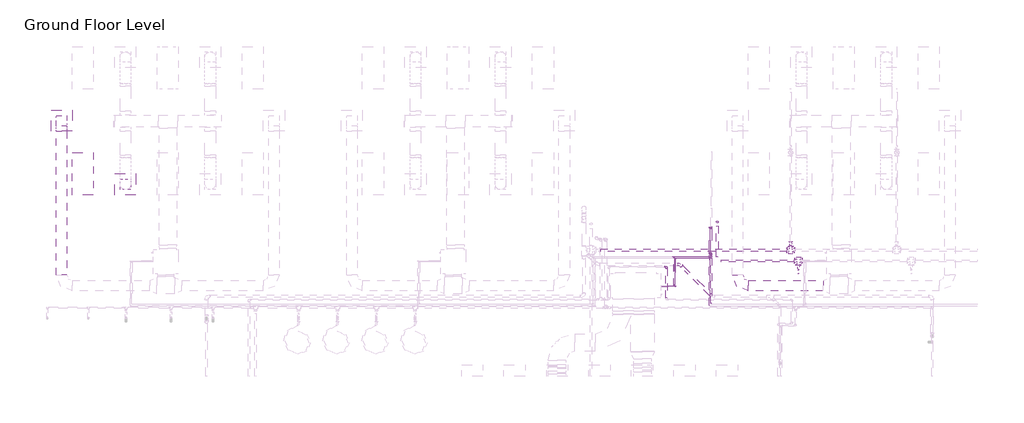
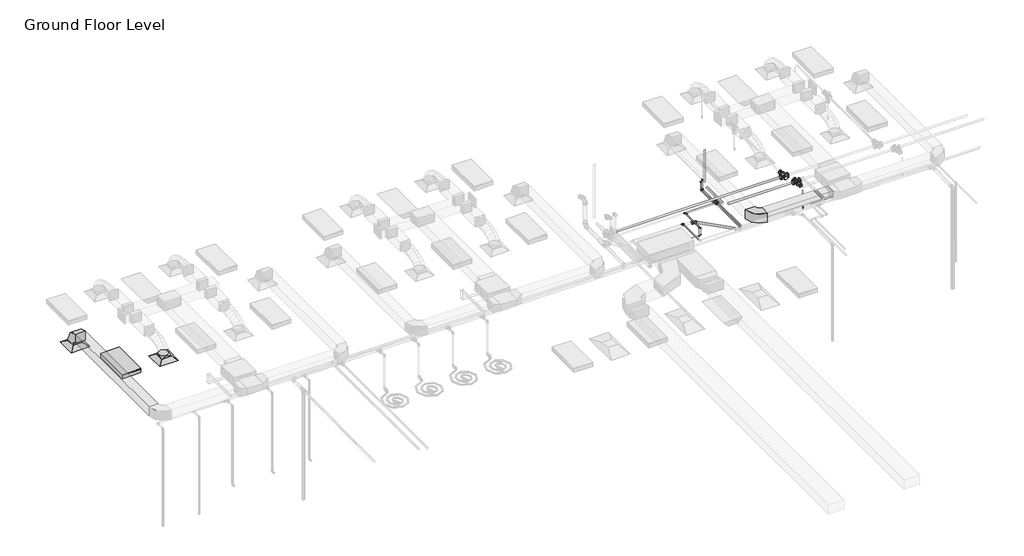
# One storey, part 53 of 74: 30 pipe fittings, 25 pipe segments, 3 duct fittings, 3 duct segments, 2 air terminals, 1 fire suppression terminal, 1 light fixture.
"""IFC4 building model written with IfcOpenShell, lengths in millimetres."""

from ifc_helpers import new_model, si_unit, point, frame, frame_2d, origin, place, context, project, spatial, polyline, circle_curve, trimmed, segment, composite_curve, outline, extrude, transform, mapped, element, save
from components import m_return_diffuser_600_x_600_face_300_x_300_connection_ff221211, m_rectangular_elbow_radius_1_w_618da153, m_rectangular_to_round_transition_angle_45_degree_641efff0, m_sprinkler_pendent_15_mm_pendent_06fcbd8e, m_troffer_light_parabolic_rectangular1_0600x1200mm_4_lamp_86473d4a, m_bend_pvc_sch_40_dwv_standard_9e3ead78, m_elbow_generic_standard_a088f956, m_elbow_generic_standard_2a704253, m_elbow_generic_standard_f25111a3, m_elbow_generic_standard_aa88c7e2, m_elbow_generic_standard_738589b0, m_elbow_generic_standard_463efa77, m_reducer_flanged_cs_class_150_standard_a7631c35, m_reducer_flanged_cs_class_150_standard_55262df0, m_tee_generic_standard_cdc1cff5, m_tee_generic_standard_d9c36a1d, m_tee_generic_standard_3138dd84, m_tee_generic_standard_5078887e, m_tee_round_base_flanged_cs_class_150_standard_dd767e04, m_transition_generic_standard_6dc712c0, m_transition_generic_standard_b63c8674, m_transition_generic_standard_1c56dba2, m_transition_generic_standard_a7d161d7, m_transition_generic_standard_5a02929d, m_transition_generic_standard_5f8a9689, standard_517a5a8d

model = new_model("IFC4")

# Units and contexts
model_context = context("Model", 3, world=origin())
ifc_project = project(units=[si_unit("LENGTHUNIT", "METRE", prefix="MILLI")], contexts=[model_context])

# Site, building, storey
site = spatial("IfcSite", under=ifc_project)
building = spatial("IfcBuilding", under=site)
storey = spatial("IfcBuildingStorey", under=building, Name="Ground Floor Level", Elevation=900.0)

# Air terminals
placement = place(None, origin())
m_return_diffuser_600_x_600_face_300_x_300_connection_shape = m_return_diffuser_600_x_600_face_300_x_300_connection_ff221211(model_context)
element("IfcAirTerminal", 1, ObjectType="M_Return Diffuser : 600 x 600 Face 300 x 300 Connection", at=placement, inside=storey, context=model_context, shape_type="MappedRepresentation", body=[
    mapped(m_return_diffuser_600_x_600_face_300_x_300_connection_shape, transform((-20937.2327605, 18735.2153534, 3650.0), x_axis=(1.0, 0.0, 0.0), y_axis=(0.0, 1.0, 0.0), z_axis=(0.0, 0.0, 1.0))),
])
element("IfcAirTerminal", 2, ObjectType="M_Supply Diffuser : 600 x 600 Face 300 x 300 Connection", at=placement, inside=storey, context=model_context, shape_type="MappedRepresentation", body=[
    mapped(m_return_diffuser_600_x_600_face_300_x_300_connection_shape, transform((-19137.2327605, 16935.2153534, 3650.0), x_axis=(1.0, 0.0, 0.0), y_axis=(0.0, 1.0, 0.0), z_axis=(0.0, 0.0, 1.0))),
])

# Duct fittings
m_rectangular_elbow_radius_1_w_shape = m_rectangular_elbow_radius_1_w_618da153(model_context)
element("IfcDuctFitting", 3, ObjectType="M_Rectangular Elbow - Radius : 1 W", at=placement, inside=storey, context=model_context, shape_type="MappedRepresentation", body=[
    mapped(m_rectangular_elbow_radius_1_w_shape, transform((-20937.2327605, 18735.2153534, 4075.2881511), x_axis=(0.0, 0.0, 1.0), y_axis=(0.0, -1.0, 0.0), z_axis=(1.0, 0.0, 0.0))),
])
element("IfcDuctFitting", 4, ObjectType="M_Rectangular Elbow - Radius : 1 W", at=placement, inside=storey, context=model_context, shape_type="MappedRepresentation", body=[
    mapped(m_rectangular_elbow_radius_1_w_shape, transform((-1837.2327605, 14069.8153534, 4075.2872564), x_axis=(0.0, -1.0, 0.0), y_axis=(1.0, 0.0, 0.0), z_axis=(0.0, 0.0, 1.0))),
])
m_rectangular_to_round_transition_angle_45_degree_shape = m_rectangular_to_round_transition_angle_45_degree_641efff0(model_context)
element("IfcDuctFitting", 5, ObjectType="M_Rectangular to Round Transition - Angle : 45 Degree", at=placement, inside=storey, context=model_context, shape_type="MappedRepresentation", body=[
    mapped(m_rectangular_to_round_transition_angle_45_degree_shape, transform((-19137.2327605, 16935.2153534, 3751.6), x_axis=(0.0, 0.0, 1.0), y_axis=(-1.0, 0.0, 0.0), z_axis=(0.0, -1.0, 0.0))),
])

# Duct segments
element("IfcDuctSegment", 6, ObjectType="Radius Elbows / Taps", at=placement, inside=storey, context=model_context, shape_type="SweptSolid", body=[
    extrude(outline(polyline([(-20787.2327605, 14369.8153534), (-21087.2327605, 14369.8153534), (-21087.2327605, 18435.2153534), (-20787.2327605, 18435.2153534), (-20787.2327605, 14369.8153534)])), frame((0.0, 0.0, 3925.2881511), z_axis=(0.0, 0.0, 1.0), x_axis=(1.0, 0.0, 0.0)), (0.0, 0.0, 1.0), 300.0),
])
element("IfcDuctSegment", 7, ObjectType="Radius Elbows / Taps", at=placement, inside=storey, context=model_context, shape_type="SweptSolid", body=[
    extrude(outline(polyline([(-20787.2327605, 18585.2153534), (-21087.2327605, 18585.2153534), (-21087.2327605, 18885.2153534), (-20787.2327605, 18885.2153534), (-20787.2327605, 18585.2153534)])), frame((0.0, 0.0, 3751.6), z_axis=(0.0, 0.0, 1.0), x_axis=(1.0, 0.0, 0.0)), (0.0, 0.0, 1.0), 23.6881511),
])
element("IfcDuctSegment", 8, ObjectType="Radius Elbows / Taps", at=placement, inside=storey, context=model_context, shape_type="SweptSolid", body=[
    extrude(outline(polyline([(-1537.2327605, 13919.8153534), (-1537.2327605, 14219.8153534), (576.4293293, 14219.8153534), (576.4293293, 13919.8153534), (-1537.2327605, 13919.8153534)])), frame((0.0, 0.0, 3925.2872564), z_axis=(0.0, 0.0, 1.0), x_axis=(1.0, 0.0, 0.0)), (0.0, 0.0, 1.0), 300.0),
])

# Fire suppression terminal
m_sprinkler_pendent_15_mm_pendent_shape = m_sprinkler_pendent_15_mm_pendent_06fcbd8e(model_context)
element("IfcFireSuppressionTerminal", 9, ObjectType="M_Sprinkler - Pendent : 15 mm Pendent", at=placement, inside=storey, context=model_context, shape_type="MappedRepresentation", body=[
    mapped(m_sprinkler_pendent_15_mm_pendent_shape, transform((-118.3252882, 14412.7243649, 3650.0), x_axis=(1.0, 0.0, 0.0), y_axis=(0.0, 1.0, 0.0), z_axis=(0.0, 0.0, 1.0))),
])

# Light fixture
m_troffer_light_parabolic_rectangular1_0600x1200mm_4_lamp_shape = m_troffer_light_parabolic_rectangular1_0600x1200mm_4_lamp_86473d4a(model_context)
element("IfcLightFixture", 10, ObjectType="M_Troffer Light - Parabolic Rectangular1 : 0600x1200mm(4 Lamp) - 277V 2", at=placement, inside=storey, context=model_context, shape_type="MappedRepresentation", body=[
    mapped(m_troffer_light_parabolic_rectangular1_0600x1200mm_4_lamp_shape, transform((-20396.6986926, 17253.918855, 3650.0), x_axis=(0.0, 1.0, 0.0), y_axis=(-1.0, 0.0, 0.0), z_axis=(0.0, 0.0, 1.0))),
])

# Pipe fittings
m_bend_pvc_sch_40_dwv_standard_shape = m_bend_pvc_sch_40_dwv_standard_9e3ead78(model_context)
element("IfcPipeFitting", 11, ObjectType="M_Bend - PVC - Sch 40 - DWV : Standard", at=placement, inside=storey, context=model_context, shape_type="MappedRepresentation", body=[
    mapped(m_bend_pvc_sch_40_dwv_standard_shape, transform((-3461.339311, 14668.7334723, 4139.7239678), x_axis=(-0.707093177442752, 0.7070575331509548, 0.009427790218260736), y_axis=(-0.7070496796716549, -0.7071481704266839, 0.004713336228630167), z_axis=(0.009999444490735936, -0.003333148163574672, 0.9999444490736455))),
])
m_elbow_generic_standard_shape = m_elbow_generic_standard_a088f956(model_context)
element("IfcPipeFitting", 12, ObjectType="M_Elbow - Generic : Standard", at=placement, inside=storey, context=model_context, shape_type="MappedRepresentation", body=[
    mapped(m_elbow_generic_standard_shape, transform((-3637.0883718, 14069.8153534, 4380.0), x_axis=(0.0, 0.0, 1.0), y_axis=(0.0, 1.0, 0.0), z_axis=(-1.0, 0.0, 0.0))),
])
m_elbow_generic_standard_2_shape = m_elbow_generic_standard_2a704253(model_context)
element("IfcPipeFitting", 13, ObjectType="M_Elbow - Generic : Standard", at=placement, inside=storey, context=model_context, shape_type="MappedRepresentation", body=[
    mapped(m_elbow_generic_standard_2_shape, transform((-3597.0886568, 14044.8153534, 4365.0), x_axis=(0.0, 0.0, 1.0), y_axis=(0.0, 1.0, 0.0), z_axis=(-1.0, 0.0, 0.0))),
])
m_elbow_generic_standard_3_shape = m_elbow_generic_standard_f25111a3(model_context)
element("IfcPipeFitting", 14, ObjectType="M_Elbow - Generic : Standard", at=placement, inside=storey, context=model_context, shape_type="MappedRepresentation", body=[
    mapped(m_elbow_generic_standard_3_shape, transform((-3597.0886568, 14044.8153534, 4134.9021206), x_axis=(0.9999999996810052, 0.0, 2.525845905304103e-05), y_axis=(-2.525845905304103e-05, 0.0, 0.9999999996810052), z_axis=(0.0, -1.0, 0.0))),
])
m_elbow_generic_standard_4_shape = m_elbow_generic_standard_aa88c7e2(model_context)
element("IfcPipeFitting", 15, ObjectType="M_Elbow - Generic : Standard", at=placement, inside=storey, context=model_context, shape_type="MappedRepresentation", body=[
    mapped(m_elbow_generic_standard_4_shape, transform((-3637.0883718, 14069.8153534, 4084.1021206), x_axis=(0.9999999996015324, 0.0, 2.823004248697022e-05), y_axis=(-2.823004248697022e-05, 0.0, 0.9999999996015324), z_axis=(0.0, -1.0, 0.0))),
])
m_elbow_generic_standard_5_shape = m_elbow_generic_standard_738589b0(model_context)
element("IfcPipeFitting", 16, ObjectType="M_Elbow - Generic : Standard", at=placement, inside=storey, context=model_context, shape_type="MappedRepresentation", body=[
    mapped(m_elbow_generic_standard_5_shape, transform((-2632.5317947, 15715.5935138, 4581.0887163), x_axis=(0.0, 0.0, 1.0), y_axis=(0.0, 1.0, 0.0), z_axis=(-1.0, 0.0, 0.0))),
])
element("IfcPipeFitting", 17, ObjectType="M_Elbow - Generic : Standard", at=placement, inside=storey, context=model_context, shape_type="MappedRepresentation", body=[
    mapped(m_elbow_generic_standard_5_shape, transform((-2632.5317947, 14990.7777393, 4365.0), x_axis=(0.0, 1.0, 0.0), y_axis=(0.0, 0.0, -1.0), z_axis=(-1.0, 0.0, 0.0))),
])
element("IfcPipeFitting", 18, ObjectType="M_Elbow - Generic : Standard", at=placement, inside=storey, context=model_context, shape_type="MappedRepresentation", body=[
    mapped(m_elbow_generic_standard_5_shape, transform((-2632.5317947, 15715.5935138, 4300.0), x_axis=(0.0, 0.0, -1.0), y_axis=(0.0, -1.0, 0.0), z_axis=(-1.0, 0.0, 0.0))),
])
element("IfcPipeFitting", 19, ObjectType="M_Elbow - Generic : Standard", at=placement, inside=storey, context=model_context, shape_type="MappedRepresentation", body=[
    mapped(m_elbow_generic_standard_5_shape, transform((-2632.5317947, 14990.7777393, 4300.0), x_axis=(0.0, 0.0, -1.0), y_axis=(0.0, 1.0, 0.0), z_axis=(1.0, 0.0, 0.0))),
])
m_elbow_generic_standard_6_shape = m_elbow_generic_standard_463efa77(model_context)
element("IfcPipeFitting", 20, ObjectType="M_Elbow - Generic : Standard", at=placement, inside=storey, context=model_context, shape_type="MappedRepresentation", body=[
    mapped(m_elbow_generic_standard_6_shape, transform((-2579.6952605, 15716.2153534, 4634.3568617), x_axis=(0.0, 0.0, 1.0), y_axis=(0.0, 1.0, 0.0), z_axis=(-1.0, 0.0, 0.0))),
])
element("IfcPipeFitting", 21, ObjectType="M_Elbow - Generic : Standard", at=placement, inside=storey, context=model_context, shape_type="MappedRepresentation", body=[
    mapped(m_elbow_generic_standard_6_shape, transform((-2579.6952605, 14974.394156, 4380.0), x_axis=(0.0, 1.0, 0.0), y_axis=(0.0, 0.0, -1.0), z_axis=(-1.0, 0.0, 0.0))),
])
element("IfcPipeFitting", 22, ObjectType="M_Elbow - Generic : Standard", at=placement, inside=storey, context=model_context, shape_type="MappedRepresentation", body=[
    mapped(m_elbow_generic_standard_6_shape, transform((-2579.6952605, 15716.2153534, 4300.0), x_axis=(0.0, 0.0, -1.0), y_axis=(0.0, -1.0, 0.0), z_axis=(-1.0, 0.0, 0.0))),
])
element("IfcPipeFitting", 23, ObjectType="M_Elbow - Generic : Standard", at=placement, inside=storey, context=model_context, shape_type="MappedRepresentation", body=[
    mapped(m_elbow_generic_standard_6_shape, transform((-2579.6952605, 14974.394156, 4300.0), x_axis=(0.0, 0.0, -1.0), y_axis=(0.0, 1.0, 0.0), z_axis=(1.0, 0.0, 0.0))),
])
m_reducer_flanged_cs_class_150_standard_shape = m_reducer_flanged_cs_class_150_standard_a7631c35(model_context)
element("IfcPipeFitting", 24, ObjectType="M_Reducer - Flanged - CS - Class 150 : Standard", at=placement, inside=storey, context=model_context, shape_type="MappedRepresentation", body=[
    mapped(m_reducer_flanged_cs_class_150_standard_shape, transform((-337.2327605, 15187.2009828, 4360.0), x_axis=(0.0, 1.0, 0.0), y_axis=(-1.0, 0.0, 0.0), z_axis=(0.0, 0.0, 1.0))),
])
m_reducer_flanged_cs_class_150_standard_2_shape = m_reducer_flanged_cs_class_150_standard_55262df0(model_context)
element("IfcPipeFitting", 25, ObjectType="M_Reducer - Flanged - CS - Class 150 : Standard", at=placement, inside=storey, context=model_context, shape_type="MappedRepresentation", body=[
    mapped(m_reducer_flanged_cs_class_150_standard_2_shape, transform((-118.3252882, 14659.4681847, 4290.0), x_axis=(0.0, -1.0, 0.0), y_axis=(1.0, 0.0, 0.0), z_axis=(0.0, 0.0, 1.0))),
])
m_tee_generic_standard_shape = m_tee_generic_standard_cdc1cff5(model_context)
element("IfcPipeFitting", 26, ObjectType="M_Tee - Generic : Standard", at=placement, inside=storey, context=model_context, shape_type="MappedRepresentation", body=[
    mapped(m_tee_generic_standard_shape, transform((-3637.091079, 14885.6024145, 4380.0), x_axis=(-1.0, 0.0, 0.0), y_axis=(0.0, 1.0, 0.0), z_axis=(0.0, 0.0, -1.0))),
])
m_tee_generic_standard_2_shape = m_tee_generic_standard_d9c36a1d(model_context)
element("IfcPipeFitting", 27, ObjectType="M_Tee - Generic : Standard", at=placement, inside=storey, context=model_context, shape_type="MappedRepresentation", body=[
    mapped(m_tee_generic_standard_2_shape, transform((-3597.091079, 14844.4055749, 4365.0), x_axis=(1.0, 0.0, 0.0), y_axis=(0.0, 1.0, 0.0), z_axis=(0.0, 0.0, 1.0))),
])
m_tee_generic_standard_3_shape = m_tee_generic_standard_3138dd84(model_context)
element("IfcPipeFitting", 28, ObjectType="M_Tee - Generic : Standard", at=placement, inside=storey, context=model_context, shape_type="MappedRepresentation", body=[
    mapped(m_tee_generic_standard_3_shape, transform((-2579.6952605, 14885.6024145, 4380.0), x_axis=(0.0, 1.0, 0.0), y_axis=(1.0, 0.0, 0.0), z_axis=(0.0, 0.0, -1.0))),
])
m_tee_generic_standard_4_shape = m_tee_generic_standard_5078887e(model_context)
element("IfcPipeFitting", 29, ObjectType="M_Tee - Generic : Standard", at=placement, inside=storey, context=model_context, shape_type="MappedRepresentation", body=[
    mapped(m_tee_generic_standard_4_shape, transform((-2632.5317947, 14844.4055749, 4365.0), x_axis=(0.0, 1.0, 0.0), y_axis=(1.0, 0.0, 0.0), z_axis=(0.0, 0.0, -1.0))),
])
m_tee_round_base_flanged_cs_class_150_standard_shape = m_tee_round_base_flanged_cs_class_150_standard_dd767e04(model_context)
element("IfcPipeFitting", 30, ObjectType="M_Tee Round Base - Flanged - CS - Class 150 : Standard", at=placement, inside=storey, context=model_context, shape_type="MappedRepresentation", body=[
    mapped(m_tee_round_base_flanged_cs_class_150_standard_shape, transform((-118.3252882, 14773.4681847, 4290.0), x_axis=(-1.0, 0.0, 0.0), y_axis=(0.0, 1.0, 0.0), z_axis=(0.0, 0.0, -1.0))),
])
element("IfcPipeFitting", 31, ObjectType="M_Tee Round Base - Flanged - CS - Class 150 : Standard", at=placement, inside=storey, context=model_context, shape_type="MappedRepresentation", body=[
    mapped(m_tee_round_base_flanged_cs_class_150_standard_shape, transform((-337.2327605, 15073.2009828, 4360.0), x_axis=(-1.0, 0.0, 0.0), y_axis=(0.0, -1.0, 0.0), z_axis=(0.0, 0.0, 1.0))),
])
m_transition_generic_standard_shape = m_transition_generic_standard_6dc712c0(model_context)
element("IfcPipeFitting", 32, ObjectType="M_Transition - Generic : Standard", at=placement, inside=storey, context=model_context, shape_type="MappedRepresentation", body=[
    mapped(m_transition_generic_standard_shape, transform((-3659.316079, 14885.6024145, 4380.0), x_axis=(-1.0, 0.0, 0.0), y_axis=(0.0, -1.0, 0.0), z_axis=(0.0, 0.0, 1.0))),
])
element("IfcPipeFitting", 33, ObjectType="M_Transition - Generic : Standard", at=placement, inside=storey, context=model_context, shape_type="MappedRepresentation", body=[
    mapped(m_transition_generic_standard_shape, transform((-3637.091079, 14863.3774145, 4380.0), x_axis=(0.0, -1.0, 0.0), y_axis=(1.0, 0.0, 0.0), z_axis=(0.0, 0.0, 1.0))),
])
m_transition_generic_standard_2_shape = m_transition_generic_standard_b63c8674(model_context)
element("IfcPipeFitting", 34, ObjectType="M_Transition - Generic : Standard", at=placement, inside=storey, context=model_context, shape_type="MappedRepresentation", body=[
    mapped(m_transition_generic_standard_2_shape, transform((-3616.128579, 14844.4055749, 4365.0), x_axis=(-1.0, 0.0, 0.0), y_axis=(0.0, -1.0, 0.0), z_axis=(0.0, 0.0, 1.0))),
])
element("IfcPipeFitting", 35, ObjectType="M_Transition - Generic : Standard", at=placement, inside=storey, context=model_context, shape_type="MappedRepresentation", body=[
    mapped(m_transition_generic_standard_2_shape, transform((-3597.091079, 14825.3680749, 4365.0), x_axis=(0.0, -1.0, 0.0), y_axis=(1.0, 0.0, 0.0), z_axis=(0.0, 0.0, 1.0))),
])
m_transition_generic_standard_3_shape = m_transition_generic_standard_1c56dba2(model_context)
element("IfcPipeFitting", 36, ObjectType="M_Transition - Generic : Standard", at=placement, inside=storey, context=model_context, shape_type="MappedRepresentation", body=[
    mapped(m_transition_generic_standard_3_shape, transform((-2608.2702605, 14885.6024145, 4380.0), x_axis=(-1.0, 0.0, 0.0), y_axis=(0.0, -1.0, 0.0), z_axis=(0.0, 0.0, 1.0))),
])
m_transition_generic_standard_4_shape = m_transition_generic_standard_a7d161d7(model_context)
element("IfcPipeFitting", 37, ObjectType="M_Transition - Generic : Standard", at=placement, inside=storey, context=model_context, shape_type="MappedRepresentation", body=[
    mapped(m_transition_generic_standard_4_shape, transform((-2656.3442947, 14844.4055749, 4365.0), x_axis=(-1.0, 0.0, 0.0), y_axis=(0.0, -1.0, 0.0), z_axis=(0.0, 0.0, 1.0))),
])
m_transition_generic_standard_5_shape = m_transition_generic_standard_5a02929d(model_context)
element("IfcPipeFitting", 38, ObjectType="M_Transition - Generic : Standard", at=placement, inside=storey, context=model_context, shape_type="MappedRepresentation", body=[
    mapped(m_transition_generic_standard_5_shape, transform((-2579.6952605, 14857.0274145, 4380.0), x_axis=(0.0, -1.0, 0.0), y_axis=(1.0, 0.0, 0.0), z_axis=(0.0, 0.0, 1.0))),
])
m_transition_generic_standard_6_shape = m_transition_generic_standard_5f8a9689(model_context)
element("IfcPipeFitting", 39, ObjectType="M_Transition - Generic : Standard", at=placement, inside=storey, context=model_context, shape_type="MappedRepresentation", body=[
    mapped(m_transition_generic_standard_6_shape, transform((-2632.5317947, 14820.5930749, 4365.0), x_axis=(0.0, -1.0, 0.0), y_axis=(1.0, 0.0, 0.0), z_axis=(0.0, 0.0, 1.0))),
])
standard_shape = standard_517a5a8d(model_context)
element("IfcPipeFitting", 40, ObjectType="M_Elbow - CPVC - Sch 40 : Standard", at=placement, inside=storey, context=model_context, shape_type="MappedRepresentation", body=[
    mapped(standard_shape, transform((-3846.4489567, 14603.43487, 4250.0), x_axis=(0.0, 1.0, 0.0), y_axis=(-1.0, 0.0, 0.0), z_axis=(0.0, 0.0, 1.0))),
])

# Pipe segments
element("IfcPipeSegment", 41, ObjectType="CPVC", at=placement, inside=storey, context=model_context, shape_type="SweptSolid", body=[
    extrude(outline(composite_curve([segment(trimmed(circle_curve(frame_2d((4250.0, -3846.4489567)), 16.7005), [point((4250.0, -3863.1494567))], [point((4233.2995, -3846.4489567))], False, "CARTESIAN"), True, "CONTINUOUS"), segment(trimmed(circle_curve(frame_2d((4250.0, -3846.4489567)), 16.7005), [point((4233.2995, -3846.4489567))], [point((4250.0, -3829.7484567))], False, "CARTESIAN"), True, "CONTINUOUS"), segment(trimmed(circle_curve(frame_2d((4250.0, -3846.4489567)), 16.7005), [point((4250.0, -3829.7484567))], [point((4266.7005, -3846.4489567))], False, "CARTESIAN"), True, "CONTINUOUS"), segment(trimmed(circle_curve(frame_2d((4250.0, -3846.4489567)), 16.7005), [point((4266.7005, -3846.4489567))], [point((4250.0, -3863.1494567))], False, "CARTESIAN"), True, "CONTINUOUS")], self_intersect=False)), frame((0.0, 13718.4779034, 0.0), z_axis=(0.0, 1.0, 0.0), x_axis=(0.0, 0.0, 1.0)), (0.0, 0.0, 1.0), 841.6944166),
])
element("IfcPipeSegment", 42, ObjectType="Copper", at=placement, inside=storey, context=model_context, shape_type="SweptSolid", body=[
    extrude(outline(composite_curve([segment(trimmed(circle_curve(frame_2d((4380.0, -2579.6952605)), 11.5), [point((4380.0, -2591.1952605))], [point((4368.5, -2579.6952605))], False, "CARTESIAN"), True, "CONTINUOUS"), segment(trimmed(circle_curve(frame_2d((4380.0, -2579.6952605)), 11.5), [point((4368.5, -2579.6952605))], [point((4380.0, -2568.1952605))], False, "CARTESIAN"), True, "CONTINUOUS"), segment(trimmed(circle_curve(frame_2d((4380.0, -2579.6952605)), 11.5), [point((4380.0, -2568.1952605))], [point((4391.5, -2579.6952605))], False, "CARTESIAN"), True, "CONTINUOUS"), segment(trimmed(circle_curve(frame_2d((4380.0, -2579.6952605)), 11.5), [point((4391.5, -2579.6952605))], [point((4380.0, -2591.1952605))], False, "CARTESIAN"), True, "CONTINUOUS")], self_intersect=False)), frame((0.0, 13564.2653534, 0.0), z_axis=(0.0, 1.0, 0.0), x_axis=(0.0, 0.0, 1.0)), (0.0, 0.0, 1.0), 1284.8245611),
])
element("IfcPipeSegment", 43, ObjectType="Copper", at=placement, inside=storey, context=model_context, shape_type="SweptSolid", body=[
    extrude(outline(composite_curve([segment(trimmed(circle_curve(frame_2d((4365.0, -2632.5317947)), 8.1), [point((4365.0, -2640.6317947))], [point((4356.9, -2632.5317947))], False, "CARTESIAN"), True, "CONTINUOUS"), segment(trimmed(circle_curve(frame_2d((4365.0, -2632.5317947)), 8.1), [point((4356.9, -2632.5317947))], [point((4365.0, -2624.4317947))], False, "CARTESIAN"), True, "CONTINUOUS"), segment(trimmed(circle_curve(frame_2d((4365.0, -2632.5317947)), 8.1), [point((4365.0, -2624.4317947))], [point((4373.1, -2632.5317947))], False, "CARTESIAN"), True, "CONTINUOUS"), segment(trimmed(circle_curve(frame_2d((4365.0, -2632.5317947)), 8.1), [point((4373.1, -2632.5317947))], [point((4365.0, -2640.6317947))], False, "CARTESIAN"), True, "CONTINUOUS")], self_intersect=False)), frame((0.0, 13509.8935138, 0.0), z_axis=(0.0, 1.0, 0.0), x_axis=(0.0, 0.0, 1.0)), (0.0, 0.0, 1.0), 1305.1433111),
])
element("IfcPipeSegment", 44, ObjectType="Copper", at=placement, inside=storey, context=model_context, shape_type="SweptSolid", body=[
    extrude(outline(composite_curve([segment(trimmed(circle_curve(frame_2d((0.0, 6.5)), 6.5), [point((0.0, 13.0))], [point((6.5, 6.5))], False, "CARTESIAN"), True, "CONTINUOUS"), segment(trimmed(circle_curve(frame_2d((0.0, 6.5)), 6.5), [point((6.5, 6.5))], [point((0.0, 0.0))], False, "CARTESIAN"), True, "CONTINUOUS"), segment(trimmed(circle_curve(frame_2d((0.0, 6.5)), 6.5), [point((0.0, 0.0))], [point((-6.5, 6.5))], False, "CARTESIAN"), True, "CONTINUOUS"), segment(trimmed(circle_curve(frame_2d((0.0, 6.5)), 6.5), [point((-6.5, 6.5))], [point((0.0, 13.0))], False, "CARTESIAN"), True, "CONTINUOUS")], self_intersect=False)), frame((-3643.5883718, 14084.1028307, 4380.0), z_axis=(-3.495363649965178e-06, 0.9999999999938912, 0.0), x_axis=(0.0, 0.0, 1.0)), (0.0, 0.0, 1.0), 774.5120611),
])
element("IfcPipeSegment", 45, ObjectType="Copper", at=placement, inside=storey, context=model_context, shape_type="SweptSolid", body=[
    extrude(outline(composite_curve([segment(trimmed(circle_curve(frame_2d((0.0, 3.35)), 3.35), [point((-3.35, 3.35))], [point((0.0, 6.7))], False, "CARTESIAN"), True, "CONTINUOUS"), segment(trimmed(circle_curve(frame_2d((0.0, 3.35)), 3.35), [point((0.0, 6.7))], [point((3.35, 3.35))], False, "CARTESIAN"), True, "CONTINUOUS"), segment(trimmed(circle_curve(frame_2d((0.0, 3.35)), 3.35), [point((3.35, 3.35))], [point((0.0, 0.0))], False, "CARTESIAN"), True, "CONTINUOUS"), segment(trimmed(circle_curve(frame_2d((0.0, 3.35)), 3.35), [point((0.0, 0.0))], [point((-3.35, 3.35))], False, "CARTESIAN"), True, "CONTINUOUS")], self_intersect=False)), frame((-3977.0909943, 14044.8153534, 4131.5425223), z_axis=(0.9999999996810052, 0.0, 2.5258459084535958e-05), x_axis=(0.0, 1.0, 0.0)), (0.0, 0.0, 1.0), 368.8652035),
])
element("IfcPipeSegment", 46, ObjectType="Copper", at=placement, inside=storey, context=model_context, shape_type="SweptSolid", body=[
    extrude(outline(composite_curve([segment(trimmed(circle_curve(frame_2d((0.0, 3.35)), 3.35), [point((0.0, 6.7))], [point((3.35, 3.35))], False, "CARTESIAN"), True, "CONTINUOUS"), segment(trimmed(circle_curve(frame_2d((0.0, 3.35)), 3.35), [point((3.35, 3.35))], [point((0.0, 0.0))], False, "CARTESIAN"), True, "CONTINUOUS"), segment(trimmed(circle_curve(frame_2d((0.0, 3.35)), 3.35), [point((0.0, 0.0))], [point((-3.35, 3.35))], False, "CARTESIAN"), True, "CONTINUOUS"), segment(trimmed(circle_curve(frame_2d((0.0, 3.35)), 3.35), [point((-3.35, 3.35))], [point((0.0, 6.7))], False, "CARTESIAN"), True, "CONTINUOUS")], self_intersect=False)), frame((-3600.4386568, 14055.9528428, 4365.0), z_axis=(-3.1611664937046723e-06, 0.9999999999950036, 0.0), x_axis=(0.0, 0.0, 1.0)), (0.0, 0.0, 1.0), 766.2464715),
])
element("IfcPipeSegment", 47, ObjectType="Copper", at=placement, inside=storey, context=model_context, shape_type="SweptSolid", body=[
    extrude(outline(composite_curve([segment(trimmed(circle_curve(frame_2d((-3597.0886568, 14044.8153534)), 3.35), [point((-3600.4386568, 14044.8153534))], [point((-3597.0886568, 14048.1653534))], False, "CARTESIAN"), True, "CONTINUOUS"), segment(trimmed(circle_curve(frame_2d((-3597.0886568, 14044.8153534)), 3.35), [point((-3597.0886568, 14048.1653534))], [point((-3593.7386568, 14044.8153534))], False, "CARTESIAN"), True, "CONTINUOUS"), segment(trimmed(circle_curve(frame_2d((-3597.0886568, 14044.8153534)), 3.35), [point((-3593.7386568, 14044.8153534))], [point((-3597.0886568, 14041.4653534))], False, "CARTESIAN"), True, "CONTINUOUS"), segment(trimmed(circle_curve(frame_2d((-3597.0886568, 14044.8153534)), 3.35), [point((-3597.0886568, 14041.4653534))], [point((-3600.4386568, 14044.8153534))], False, "CARTESIAN"), True, "CONTINUOUS")], self_intersect=False)), frame((0.0, 0.0, 4146.0393393), z_axis=(0.0, 0.0, 1.0), x_axis=(1.0, 0.0, 0.0)), (0.0, 0.0, 1.0), 207.8231607),
])
element("IfcPipeSegment", 48, ObjectType="Copper", at=placement, inside=storey, context=model_context, shape_type="SweptSolid", body=[
    extrude(outline(composite_curve([segment(trimmed(circle_curve(frame_2d((-3637.0883718, 14069.8153534)), 6.5), [point((-3643.5883718, 14069.8153534))], [point((-3637.0883718, 14076.3153534))], False, "CARTESIAN"), True, "CONTINUOUS"), segment(trimmed(circle_curve(frame_2d((-3637.0883718, 14069.8153534)), 6.5), [point((-3637.0883718, 14076.3153534))], [point((-3630.5883718, 14069.8153534))], False, "CARTESIAN"), True, "CONTINUOUS"), segment(trimmed(circle_curve(frame_2d((-3637.0883718, 14069.8153534)), 6.5), [point((-3630.5883718, 14069.8153534))], [point((-3637.0883718, 14063.3153534))], False, "CARTESIAN"), True, "CONTINUOUS"), segment(trimmed(circle_curve(frame_2d((-3637.0883718, 14069.8153534)), 6.5), [point((-3637.0883718, 14063.3153534))], [point((-3643.5883718, 14069.8153534))], False, "CARTESIAN"), True, "CONTINUOUS")], self_intersect=False)), frame((0.0, 0.0, 4098.3892173), z_axis=(0.0, 0.0, 1.0), x_axis=(1.0, 0.0, 0.0)), (0.0, 0.0, 1.0), 267.3232827),
])
element("IfcPipeSegment", 49, ObjectType="Copper", at=placement, inside=storey, context=model_context, shape_type="SweptSolid", body=[
    extrude(outline(composite_curve([segment(trimmed(circle_curve(frame_2d((14885.6024145, 4380.0)), 8.1), [point((14877.5024145, 4380.0))], [point((14885.6024145, 4388.1))], False, "CARTESIAN"), True, "CONTINUOUS"), segment(trimmed(circle_curve(frame_2d((14885.6024145, 4380.0)), 8.1), [point((14885.6024145, 4388.1))], [point((14893.7024145, 4380.0))], False, "CARTESIAN"), True, "CONTINUOUS"), segment(trimmed(circle_curve(frame_2d((14885.6024145, 4380.0)), 8.1), [point((14893.7024145, 4380.0))], [point((14885.6024145, 4371.9))], False, "CARTESIAN"), True, "CONTINUOUS"), segment(trimmed(circle_curve(frame_2d((14885.6024145, 4380.0)), 8.1), [point((14885.6024145, 4371.9))], [point((14877.5024145, 4380.0))], False, "CARTESIAN"), True, "CONTINUOUS")], self_intersect=False)), frame((-3614.866079, 0.0, 0.0), z_axis=(1.0, 0.0, 0.0), x_axis=(0.0, 1.0, 0.0)), (0.0, 0.0, 1.0), 998.6583185),
])
element("IfcPipeSegment", 50, ObjectType="Copper", at=placement, inside=storey, context=model_context, shape_type="SweptSolid", body=[
    extrude(outline(composite_curve([segment(trimmed(circle_curve(frame_2d((14844.4055749, 4365.0)), 4.9), [point((14849.3055749, 4365.0))], [point((14844.4055749, 4360.1))], False, "CARTESIAN"), True, "CONTINUOUS"), segment(trimmed(circle_curve(frame_2d((14844.4055749, 4365.0)), 4.9), [point((14844.4055749, 4360.1))], [point((14839.5055749, 4365.0))], False, "CARTESIAN"), True, "CONTINUOUS"), segment(trimmed(circle_curve(frame_2d((14844.4055749, 4365.0)), 4.9), [point((14839.5055749, 4365.0))], [point((14844.4055749, 4369.9))], False, "CARTESIAN"), True, "CONTINUOUS"), segment(trimmed(circle_curve(frame_2d((14844.4055749, 4365.0)), 4.9), [point((14844.4055749, 4369.9))], [point((14849.3055749, 4365.0))], False, "CARTESIAN"), True, "CONTINUOUS")], self_intersect=False)), frame((-3578.053579, 0.0, 0.0), z_axis=(1.0, 0.0, 0.0), x_axis=(0.0, 1.0, 0.0)), (0.0, 0.0, 1.0), 916.1530343),
])
element("IfcPipeSegment", 51, ObjectType="Copper", at=placement, inside=storey, context=model_context, shape_type="SweptSolid", body=[
    extrude(outline(composite_curve([segment(trimmed(circle_curve(frame_2d((4300.0, -2579.6952605)), 14.5), [point((4300.0, -2594.1952605))], [point((4285.5, -2579.6952605))], False, "CARTESIAN"), True, "CONTINUOUS"), segment(trimmed(circle_curve(frame_2d((4300.0, -2579.6952605)), 14.5), [point((4285.5, -2579.6952605))], [point((4300.0, -2565.1952605))], False, "CARTESIAN"), True, "CONTINUOUS"), segment(trimmed(circle_curve(frame_2d((4300.0, -2579.6952605)), 14.5), [point((4300.0, -2565.1952605))], [point((4314.5, -2579.6952605))], False, "CARTESIAN"), True, "CONTINUOUS"), segment(trimmed(circle_curve(frame_2d((4300.0, -2579.6952605)), 14.5), [point((4314.5, -2579.6952605))], [point((4300.0, -2594.1952605))], False, "CARTESIAN"), True, "CONTINUOUS")], self_intersect=False)), frame((0.0, 14996.619156, 0.0), z_axis=(0.0, 1.0, 0.0), x_axis=(0.0, 0.0, 1.0)), (0.0, 0.0, 1.0), 697.3711973),
])
element("IfcPipeSegment", 52, ObjectType="Copper", at=placement, inside=storey, context=model_context, shape_type="SweptSolid", body=[
    extrude(outline(composite_curve([segment(trimmed(circle_curve(frame_2d((4300.0, -2632.5317947)), 9.75), [point((4300.0, -2642.2817947))], [point((4290.25, -2632.5317947))], False, "CARTESIAN"), True, "CONTINUOUS"), segment(trimmed(circle_curve(frame_2d((4300.0, -2632.5317947)), 9.75), [point((4290.25, -2632.5317947))], [point((4300.0, -2622.7817947))], False, "CARTESIAN"), True, "CONTINUOUS"), segment(trimmed(circle_curve(frame_2d((4300.0, -2632.5317947)), 9.75), [point((4300.0, -2622.7817947))], [point((4309.75, -2632.5317947))], False, "CARTESIAN"), True, "CONTINUOUS"), segment(trimmed(circle_curve(frame_2d((4300.0, -2632.5317947)), 9.75), [point((4309.75, -2632.5317947))], [point((4300.0, -2642.2817947))], False, "CARTESIAN"), True, "CONTINUOUS")], self_intersect=False)), frame((0.0, 15008.2402393, 0.0), z_axis=(0.0, 1.0, 0.0), x_axis=(0.0, 0.0, 1.0)), (0.0, 0.0, 1.0), 689.8907745),
])
element("IfcPipeSegment", 53, ObjectType="Copper", at=placement, inside=storey, context=model_context, shape_type="SweptSolid", body=[
    extrude(outline(composite_curve([segment(trimmed(circle_curve(frame_2d((-2632.5317947, 15715.5935138)), 9.75), [point((-2642.2817947, 15715.5935138))], [point((-2632.5317947, 15725.3435138))], False, "CARTESIAN"), True, "CONTINUOUS"), segment(trimmed(circle_curve(frame_2d((-2632.5317947, 15715.5935138)), 9.75), [point((-2632.5317947, 15725.3435138))], [point((-2622.7817947, 15715.5935138))], False, "CARTESIAN"), True, "CONTINUOUS"), segment(trimmed(circle_curve(frame_2d((-2632.5317947, 15715.5935138)), 9.75), [point((-2622.7817947, 15715.5935138))], [point((-2632.5317947, 15705.8435138))], False, "CARTESIAN"), True, "CONTINUOUS"), segment(trimmed(circle_curve(frame_2d((-2632.5317947, 15715.5935138)), 9.75), [point((-2632.5317947, 15705.8435138))], [point((-2642.2817947, 15715.5935138))], False, "CARTESIAN"), True, "CONTINUOUS")], self_intersect=False)), frame((0.0, 0.0, 4317.4625), z_axis=(0.0, 0.0, 1.0), x_axis=(1.0, 0.0, 0.0)), (0.0, 0.0, 1.0), 246.1637163),
])
element("IfcPipeSegment", 54, ObjectType="Copper", at=placement, inside=storey, context=model_context, shape_type="SweptSolid", body=[
    extrude(outline(composite_curve([segment(trimmed(circle_curve(frame_2d((-2579.6952605, 15716.2153534)), 14.5), [point((-2594.1952605, 15716.2153534))], [point((-2579.6952605, 15730.7153534))], False, "CARTESIAN"), True, "CONTINUOUS"), segment(trimmed(circle_curve(frame_2d((-2579.6952605, 15716.2153534)), 14.5), [point((-2579.6952605, 15730.7153534))], [point((-2565.1952605, 15716.2153534))], False, "CARTESIAN"), True, "CONTINUOUS"), segment(trimmed(circle_curve(frame_2d((-2579.6952605, 15716.2153534)), 14.5), [point((-2565.1952605, 15716.2153534))], [point((-2579.6952605, 15701.7153534))], False, "CARTESIAN"), True, "CONTINUOUS"), segment(trimmed(circle_curve(frame_2d((-2579.6952605, 15716.2153534)), 14.5), [point((-2579.6952605, 15701.7153534))], [point((-2594.1952605, 15716.2153534))], False, "CARTESIAN"), True, "CONTINUOUS")], self_intersect=False)), frame((0.0, 0.0, 4322.225), z_axis=(0.0, 0.0, 1.0), x_axis=(1.0, 0.0, 0.0)), (0.0, 0.0, 1.0), 289.9068617),
])
element("IfcPipeSegment", 55, ObjectType="Copper", at=placement, inside=storey, context=model_context, shape_type="SweptSolid", body=[
    extrude(outline(composite_curve([segment(trimmed(circle_curve(frame_2d((4365.0, -2632.5317947)), 9.75), [point((4365.0, -2622.7817947))], [point((4374.75, -2632.5317947))], False, "CARTESIAN"), True, "CONTINUOUS"), segment(trimmed(circle_curve(frame_2d((4365.0, -2632.5317947)), 9.75), [point((4374.75, -2632.5317947))], [point((4365.0, -2642.2817947))], False, "CARTESIAN"), True, "CONTINUOUS"), segment(trimmed(circle_curve(frame_2d((4365.0, -2632.5317947)), 9.75), [point((4365.0, -2642.2817947))], [point((4355.25, -2632.5317947))], False, "CARTESIAN"), True, "CONTINUOUS"), segment(trimmed(circle_curve(frame_2d((4365.0, -2632.5317947)), 9.75), [point((4355.25, -2632.5317947))], [point((4365.0, -2622.7817947))], False, "CARTESIAN"), True, "CONTINUOUS")], self_intersect=False)), frame((0.0, 14868.2180749, 0.0), z_axis=(0.0, 1.0, 0.0), x_axis=(0.0, 0.0, 1.0)), (0.0, 0.0, 1.0), 105.0971644),
])
element("IfcPipeSegment", 56, ObjectType="Copper", at=placement, inside=storey, context=model_context, shape_type="SweptSolid", body=[
    extrude(outline(composite_curve([segment(trimmed(circle_curve(frame_2d((4380.0, -2579.6952605)), 14.5), [point((4380.0, -2565.1952605))], [point((4394.5, -2579.6952605))], False, "CARTESIAN"), True, "CONTINUOUS"), segment(trimmed(circle_curve(frame_2d((4380.0, -2579.6952605)), 14.5), [point((4394.5, -2579.6952605))], [point((4380.0, -2594.1952605))], False, "CARTESIAN"), True, "CONTINUOUS"), segment(trimmed(circle_curve(frame_2d((4380.0, -2579.6952605)), 14.5), [point((4380.0, -2594.1952605))], [point((4365.5, -2579.6952605))], False, "CARTESIAN"), True, "CONTINUOUS"), segment(trimmed(circle_curve(frame_2d((4380.0, -2579.6952605)), 14.5), [point((4365.5, -2579.6952605))], [point((4380.0, -2565.1952605))], False, "CARTESIAN"), True, "CONTINUOUS")], self_intersect=False)), frame((0.0, 14914.1774145, 0.0), z_axis=(0.0, 1.0, 0.0), x_axis=(0.0, 0.0, 1.0)), (0.0, 0.0, 1.0), 37.9917415),
])
element("IfcPipeSegment", 57, ObjectType="Copper", at=placement, inside=storey, context=model_context, shape_type="SweptSolid", body=[
    extrude(outline(composite_curve([segment(trimmed(circle_curve(frame_2d((-2579.6952605, 14974.394156)), 14.5), [point((-2565.1952605, 14974.394156))], [point((-2579.6952605, 14959.894156))], False, "CARTESIAN"), True, "CONTINUOUS"), segment(trimmed(circle_curve(frame_2d((-2579.6952605, 14974.394156)), 14.5), [point((-2579.6952605, 14959.894156))], [point((-2594.1952605, 14974.394156))], False, "CARTESIAN"), True, "CONTINUOUS"), segment(trimmed(circle_curve(frame_2d((-2579.6952605, 14974.394156)), 14.5), [point((-2594.1952605, 14974.394156))], [point((-2579.6952605, 14988.894156))], False, "CARTESIAN"), True, "CONTINUOUS"), segment(trimmed(circle_curve(frame_2d((-2579.6952605, 14974.394156)), 14.5), [point((-2579.6952605, 14988.894156))], [point((-2565.1952605, 14974.394156))], False, "CARTESIAN"), True, "CONTINUOUS")], self_intersect=False)), frame((0.0, 0.0, 4322.225), z_axis=(0.0, 0.0, 1.0), x_axis=(1.0, 0.0, 0.0)), (0.0, 0.0, 1.0), 35.55),
])
element("IfcPipeSegment", 58, ObjectType="Copper", at=placement, inside=storey, context=model_context, shape_type="SweptSolid", body=[
    extrude(outline(composite_curve([segment(trimmed(circle_curve(frame_2d((-2632.5317947, 14990.7777393)), 9.75), [point((-2622.7817947, 14990.7777393))], [point((-2632.5317947, 14981.0277393))], False, "CARTESIAN"), True, "CONTINUOUS"), segment(trimmed(circle_curve(frame_2d((-2632.5317947, 14990.7777393)), 9.75), [point((-2632.5317947, 14981.0277393))], [point((-2642.2817947, 14990.7777393))], False, "CARTESIAN"), True, "CONTINUOUS"), segment(trimmed(circle_curve(frame_2d((-2632.5317947, 14990.7777393)), 9.75), [point((-2642.2817947, 14990.7777393))], [point((-2632.5317947, 15000.5277393))], False, "CARTESIAN"), True, "CONTINUOUS"), segment(trimmed(circle_curve(frame_2d((-2632.5317947, 14990.7777393)), 9.75), [point((-2632.5317947, 15000.5277393))], [point((-2622.7817947, 14990.7777393))], False, "CARTESIAN"), True, "CONTINUOUS")], self_intersect=False)), frame((0.0, 0.0, 4317.4625), z_axis=(0.0, 0.0, 1.0), x_axis=(1.0, 0.0, 0.0)), (0.0, 0.0, 1.0), 30.075),
])
element("IfcPipeSegment", 59, ObjectType="PVC - DWV", at=placement, inside=storey, context=model_context, shape_type="SweptSolid", body=[
    extrude(outline(composite_curve([segment(trimmed(circle_curve(frame_2d((0.0, -36.5125)), 36.5125), [point((-36.5108772, -36.8567342))], [point((-0.3442341, -0.0016227))], False, "CARTESIAN"), True, "CONTINUOUS"), segment(trimmed(circle_curve(frame_2d((0.0, -36.5125)), 36.5125), [point((-0.3442341, -0.0016227))], [point((36.5108773, -36.1682657))], False, "CARTESIAN"), True, "CONTINUOUS"), segment(trimmed(circle_curve(frame_2d((0.0, -36.5125)), 36.5125), [point((36.5108773, -36.1682657))], [point((0.3442343, -73.0233772))], False, "CARTESIAN"), True, "CONTINUOUS"), segment(trimmed(circle_curve(frame_2d((0.0, -36.5125)), 36.5125), [point((0.3442343, -73.0233772))], [point((-36.5108772, -36.8567342))], False, "CARTESIAN"), True, "CONTINUOUS")], self_intersect=False)), frame((-2613.257958, 13821.1816791, 4091.9071043), z_axis=(-0.7070931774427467, 0.70705753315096, 0.009427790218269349), x_axis=(0.7071203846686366, 0.7070303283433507, 0.00942742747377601)), (0.0, 0.0, 1.0), 1125.8990386),
])
element("IfcPipeSegment", 60, ObjectType="Steel flanged", at=placement, inside=storey, context=model_context, shape_type="SweptSolid", body=[
    extrude(outline(composite_curve([segment(trimmed(circle_curve(frame_2d((-118.3252882, 14412.7243649)), 10.668), [point((-128.9932882, 14412.7243649))], [point((-118.3252882, 14423.3923649))], False, "CARTESIAN"), True, "CONTINUOUS"), segment(trimmed(circle_curve(frame_2d((-118.3252882, 14412.7243649)), 10.668), [point((-118.3252882, 14423.3923649))], [point((-107.6572882, 14412.7243649))], False, "CARTESIAN"), True, "CONTINUOUS"), segment(trimmed(circle_curve(frame_2d((-118.3252882, 14412.7243649)), 10.668), [point((-107.6572882, 14412.7243649))], [point((-118.3252882, 14402.0563649))], False, "CARTESIAN"), True, "CONTINUOUS"), segment(trimmed(circle_curve(frame_2d((-118.3252882, 14412.7243649)), 10.668), [point((-118.3252882, 14402.0563649))], [point((-128.9932882, 14412.7243649))], False, "CARTESIAN"), True, "CONTINUOUS")], self_intersect=False)), frame((0.0, 0.0, 3650.0), z_axis=(0.0, 0.0, 1.0), x_axis=(1.0, 0.0, 0.0)), (0.0, 0.0, 1.0), 546.9914062),
])
element("IfcPipeSegment", 61, ObjectType="Steel flanged", at=placement, inside=storey, context=model_context, shape_type="SweptSolid", body=[
    extrude(outline(composite_curve([segment(trimmed(circle_curve(frame_2d((4290.0, -118.3252882)), 10.668), [point((4290.0, -107.6572882))], [point((4300.668, -118.3252882))], False, "CARTESIAN"), True, "CONTINUOUS"), segment(trimmed(circle_curve(frame_2d((4290.0, -118.3252882)), 10.668), [point((4300.668, -118.3252882))], [point((4290.0, -128.9932882))], False, "CARTESIAN"), True, "CONTINUOUS"), segment(trimmed(circle_curve(frame_2d((4290.0, -118.3252882)), 10.668), [point((4290.0, -128.9932882))], [point((4279.332, -118.3252882))], False, "CARTESIAN"), True, "CONTINUOUS"), segment(trimmed(circle_curve(frame_2d((4290.0, -118.3252882)), 10.668), [point((4279.332, -118.3252882))], [point((4290.0, -107.6572882))], False, "CARTESIAN"), True, "CONTINUOUS")], self_intersect=False)), frame((0.0, 14505.7329586, 0.0), z_axis=(0.0, 1.0, 0.0), x_axis=(0.0, 0.0, 1.0)), (0.0, 0.0, 1.0), 26.7352261),
])
element("IfcPipeSegment", 62, ObjectType="Steel flanged", at=placement, inside=storey, context=model_context, shape_type="SweptSolid", body=[
    extrude(outline(composite_curve([segment(trimmed(circle_curve(frame_2d((14773.4681847, 4290.0)), 30.1625), [point((14743.3056847, 4290.0))], [point((14773.4681847, 4320.1625))], False, "CARTESIAN"), True, "CONTINUOUS"), segment(trimmed(circle_curve(frame_2d((14773.4681847, 4290.0)), 30.1625), [point((14773.4681847, 4320.1625))], [point((14803.6306847, 4290.0))], False, "CARTESIAN"), True, "CONTINUOUS"), segment(trimmed(circle_curve(frame_2d((14773.4681847, 4290.0)), 30.1625), [point((14803.6306847, 4290.0))], [point((14773.4681847, 4259.8375))], False, "CARTESIAN"), True, "CONTINUOUS"), segment(trimmed(circle_curve(frame_2d((14773.4681847, 4290.0)), 30.1625), [point((14773.4681847, 4259.8375))], [point((14743.3056847, 4290.0))], False, "CARTESIAN"), True, "CONTINUOUS")], self_intersect=False)), frame((-2299.9259545, 0.0, 0.0), z_axis=(1.0, 0.0, 0.0), x_axis=(0.0, 1.0, 0.0)), (0.0, 0.0, 1.0), 2067.6006663),
])
element("IfcPipeSegment", 63, ObjectType="Steel flanged", at=placement, inside=storey, context=model_context, shape_type="SweptSolid", body=[
    extrude(outline(composite_curve([segment(trimmed(circle_curve(frame_2d((4290.0, -2413.9259545)), 30.1625), [point((4290.0, -2383.7634545))], [point((4320.1625, -2413.9259545))], False, "CARTESIAN"), True, "CONTINUOUS"), segment(trimmed(circle_curve(frame_2d((4290.0, -2413.9259545)), 30.1625), [point((4320.1625, -2413.9259545))], [point((4290.0, -2444.0884545))], False, "CARTESIAN"), True, "CONTINUOUS"), segment(trimmed(circle_curve(frame_2d((4290.0, -2413.9259545)), 30.1625), [point((4290.0, -2444.0884545))], [point((4259.8375, -2413.9259545))], False, "CARTESIAN"), True, "CONTINUOUS"), segment(trimmed(circle_curve(frame_2d((4290.0, -2413.9259545)), 30.1625), [point((4259.8375, -2413.9259545))], [point((4290.0, -2383.7634545))], False, "CARTESIAN"), True, "CONTINUOUS")], self_intersect=False)), frame((0.0, 14887.4681847, 0.0), z_axis=(0.0, 1.0, 0.0), x_axis=(0.0, 0.0, 1.0)), (0.0, 0.0, 1.0), 871.5409053),
])
element("IfcPipeSegment", 64, ObjectType="Steel flanged", at=placement, inside=storey, context=model_context, shape_type="SweptSolid", body=[
    extrude(outline(composite_curve([segment(trimmed(circle_curve(frame_2d((-2413.9259545, 15873.00909)), 30.1625), [point((-2444.0884545, 15873.00909))], [point((-2413.9259545, 15903.17159))], False, "CARTESIAN"), True, "CONTINUOUS"), segment(trimmed(circle_curve(frame_2d((-2413.9259545, 15873.00909)), 30.1625), [point((-2413.9259545, 15903.17159))], [point((-2383.7634545, 15873.00909))], False, "CARTESIAN"), True, "CONTINUOUS"), segment(trimmed(circle_curve(frame_2d((-2413.9259545, 15873.00909)), 30.1625), [point((-2383.7634545, 15873.00909))], [point((-2413.9259545, 15842.84659))], False, "CARTESIAN"), True, "CONTINUOUS"), segment(trimmed(circle_curve(frame_2d((-2413.9259545, 15873.00909)), 30.1625), [point((-2413.9259545, 15842.84659))], [point((-2444.0884545, 15873.00909))], False, "CARTESIAN"), True, "CONTINUOUS")], self_intersect=False)), frame((0.0, 0.0, 4404.0), z_axis=(0.0, 0.0, 1.0), x_axis=(1.0, 0.0, 0.0)), (0.0, 0.0, 1.0), 1082.0),
])
element("IfcPipeSegment", 65, ObjectType="Steel flanged", at=placement, inside=storey, context=model_context, shape_type="SweptSolid", body=[
    extrude(outline(composite_curve([segment(trimmed(circle_curve(frame_2d((15073.2009828, 4360.0)), 30.1625), [point((15043.0384828, 4360.0))], [point((15073.2009828, 4390.1625))], False, "CARTESIAN"), True, "CONTINUOUS"), segment(trimmed(circle_curve(frame_2d((15073.2009828, 4360.0)), 30.1625), [point((15073.2009828, 4390.1625))], [point((15103.3634828, 4360.0))], False, "CARTESIAN"), True, "CONTINUOUS"), segment(trimmed(circle_curve(frame_2d((15073.2009828, 4360.0)), 30.1625), [point((15103.3634828, 4360.0))], [point((15073.2009828, 4329.8375))], False, "CARTESIAN"), True, "CONTINUOUS"), segment(trimmed(circle_curve(frame_2d((15073.2009828, 4360.0)), 30.1625), [point((15073.2009828, 4329.8375))], [point((15043.0384828, 4360.0))], False, "CARTESIAN"), True, "CONTINUOUS")], self_intersect=False)), frame((-5711.130502, 0.0, 0.0), z_axis=(1.0, 0.0, 0.0), x_axis=(0.0, 1.0, 0.0)), (0.0, 0.0, 1.0), 5259.8977415),
])

save(model, "model.ifc")
